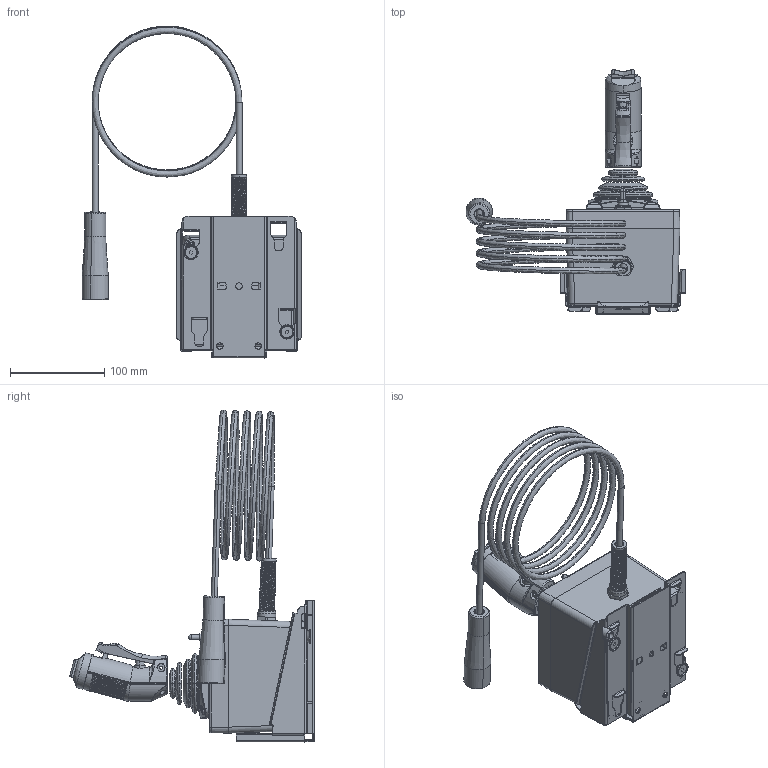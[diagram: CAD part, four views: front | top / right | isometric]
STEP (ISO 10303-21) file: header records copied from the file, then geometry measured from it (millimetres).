
FILE_DESCRIPTION (( 'STEP AP203' ), '1' );
FILE_NAME ('Y4E-JS-52.step', '2014-05-13T20:11:59', ( 'user' ), ( '' ), 'SwSTEP 2.0', 'SolidWorks 2012', '' );
FILE_SCHEMA (( 'CONFIG_CONTROL_DESIGN' ));
Products named in the file (1): Y4E-JS-52
Bounding box: 233.21 x 259.57 x 352.01 mm (x, y, z)
Surface area: 264689.5 mm2 (no closed solid volume)
Topology: 0 solids, 56 shells, 1083 faces, 3471 edges, 2320 vertices
Faces by surface type: plane 451, cylinder 303, bspline 169, cone 102, torus 58
Entity records: 74593 total; most frequent: CARTESIAN_POINT 46438, ORIENTED_EDGE 5609, DIRECTION 5388, EDGE_CURVE 3462, VERTEX_POINT 2320, AXIS2_PLACEMENT_3D 1857, LINE 1674, VECTOR 1674
